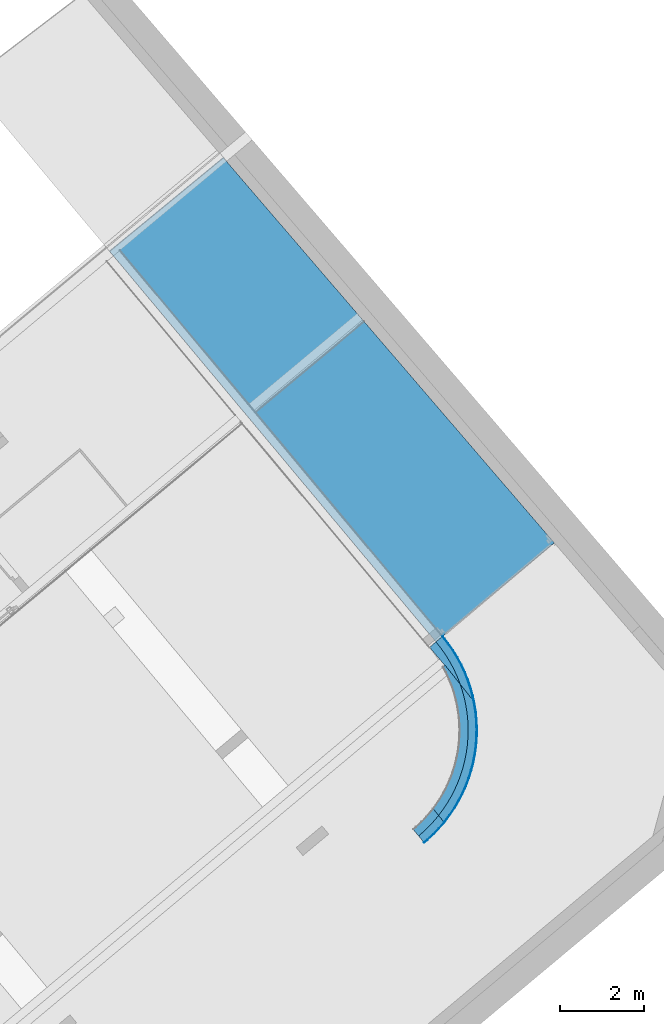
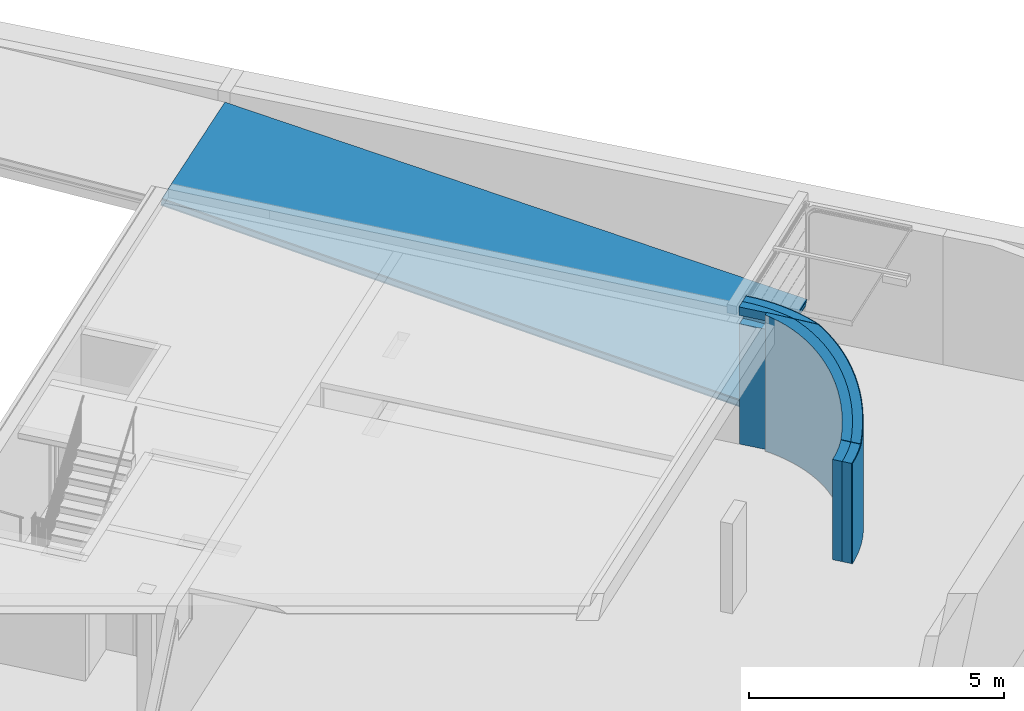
# One storey, part 12 of 17: 6 building element parts, 2 elements without a shape of their own.
"""IFC4 building model written with IfcOpenShell, lengths in metres."""

from ifc_helpers import new_model, entity, si_unit, converted_unit, derived_unit, direction, frame, origin_with_axes, place, context, subcontext, project, spatial, polygons, material, type_object, element, aggregate, save


model = new_model("IFC4")

# Units and contexts
model_context = context("Model", 3, precision=1e-05, world=origin_with_axes(), true_north=direction((0.0, 1.0)))
body_context = subcontext(model_context, "Body", "Model", "MODEL_VIEW")
ifc_project = project(units=[si_unit("LENGTHUNIT", "METRE"), si_unit("AREAUNIT", "SQUARE_METRE"), si_unit("VOLUMEUNIT", "CUBIC_METRE"), converted_unit("PLANEANGLEUNIT", "DEGREE", entity("IfcPlaneAngleMeasure", 0.0174532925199), si_unit("PLANEANGLEUNIT", "RADIAN"), dimensions=[0, 0, 0, 0, 0, 0, 0]), converted_unit("TIMEUNIT", "Year", entity("IfcTimeMeasure", 31556926.0), si_unit("TIMEUNIT", "SECOND"), dimensions=[0, 0, 1, 0, 0, 0, 0]), si_unit("MASSUNIT", "GRAM", prefix="KILO"), si_unit("THERMODYNAMICTEMPERATUREUNIT", "DEGREE_CELSIUS"), si_unit("LUMINOUSINTENSITYUNIT", "LUMEN"), si_unit("ENERGYUNIT", "JOULE", prefix="MEGA"), derived_unit("THERMALCONDUCTANCEUNIT", [(si_unit("POWERUNIT", "WATT"), 1), (si_unit("LENGTHUNIT", "METRE"), -1), (si_unit("THERMODYNAMICTEMPERATUREUNIT", "KELVIN"), -1)]), derived_unit("SPECIFICHEATCAPACITYUNIT", [(si_unit("ENERGYUNIT", "JOULE"), 1), (si_unit("MASSUNIT", "GRAM", prefix="KILO"), -1), (si_unit("THERMODYNAMICTEMPERATUREUNIT", "KELVIN"), -1)]), derived_unit("MASSDENSITYUNIT", [(si_unit("MASSUNIT", "GRAM", prefix="KILO"), 1), (si_unit("VOLUMEUNIT", "CUBIC_METRE"), -1)])], contexts=[model_context])

# Site, building, storey
site_placement = place(None, frame((-0.00153261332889, -0.00661245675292, 0.0), z_axis=(0.0, 0.0, 1.0), x_axis=(1.0, 0.0, 0.0)))
site = spatial("IfcSite", under=ifc_project, at=site_placement, Name="Site", CompositionType="ELEMENT")
building_placement = place(site_placement, origin_with_axes())
building = spatial("IfcBuilding", under=site, at=building_placement, Name="Building", CompositionType="ELEMENT")
storey_placement = place(building_placement, frame((0.0, 0.0, -3.3), z_axis=(0.0, 0.0, 1.0), x_axis=(1.0, 0.0, 0.0)))
storey = spatial("IfcBuildingStorey", under=building, at=storey_placement, Name="UG1", CompositionType="ELEMENT", Elevation=-3.3)

# Ramp, building element parts
ramp_type = type_object("IfcRampType", Name="Rampe Neu 450", PredefinedType="NOTDEFINED")
ramp_placement = place(storey_placement, frame((5.32656928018, 30.3558567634, 2.37561258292), z_axis=(0.0, 0.0, 1.0), x_axis=(0.772442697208, 0.635084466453, 0.0)))
ramp = element("IfcRamp", 1, at=ramp_placement, inside=storey, type_object=ramp_type, Name="Dach-001", PredefinedType="NOTDEFINED")
ifc_material_1 = material(Name="Asphalt")
building_element_part_1_placement = place(ramp_placement, origin_with_axes())
building_element_part_1 = element("IfcBuildingElementPart", 2, at=building_element_part_1_placement, material=ifc_material_1, Name="Asphalt", PredefinedType="NOTDEFINED", context=body_context, shape_type="Tessellation", body=[
    polygons([(-7.17183255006e-08, 0.00171041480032, 0.444810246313), (-7.17183255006e-08, 1.13942064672e-08, 0.455609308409), (3.51377557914, -5.00226526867e-08, 0.455609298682), (3.51377557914, 0.00469298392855, 0.425978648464), (3.51374725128, 0.00469298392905, 0.425978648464), (3.51376025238, 0.000701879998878, 0.451177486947), (1.33045639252e-05, 0.0, 0.444724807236), (2.46648535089e-05, 0.000674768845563, 0.431220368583), (3.53165670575e-05, 0.000966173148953, 0.425388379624), (0.0964259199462, -12.1186518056, -1.49417053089), (0.0964259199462, -12.1233448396, -1.46453988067), (3.77682829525, -12.0943327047, -1.45994480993), (3.77682829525, -12.0896396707, -1.48957546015), (3.51382246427, 0.0012843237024, 0.425438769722), (3.51377551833, 0.0, 0.451142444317)], [[[1, 2, 3, 4, 5, 6]], [[7, 8, 9, 10, 11, 2, 1]], [[2, 11, 12, 3]], [[4, 3, 12, 13]], [[9, 14, 5, 4, 13, 10]], [[15, 6, 5, 14]], [[7, 1, 6, 15]], [[8, 7, 15, 14, 9]], [[11, 10, 13, 12]]], closed=True),
])
ifc_material_2 = material(Name="Stahlbeton Decke")
building_element_part_2_placement = place(ramp_placement, origin_with_axes())
building_element_part_2 = element("IfcBuildingElementPart", 3, at=building_element_part_2_placement, material=ifc_material_2, Name="Stahlbeton Decke", PredefinedType="NOTDEFINED", context=body_context, shape_type="Tessellation", body=[
    polygons([(3.5137448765, 0.00542199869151, 0.421375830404), (1.59406739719e-05, 0.00643052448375, 0.415008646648), (0.000121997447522, 0.0234651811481, 0.30745605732), (-7.17183255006e-08, 0.0234651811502, 0.30745605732), (-7.17183255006e-08, 0.00469304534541, 0.425978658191), (3.51377557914, 0.00469298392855, 0.425978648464), (3.51377557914, 0.0234651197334, 0.307456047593), (3.51368610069, 0.0234651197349, 0.307456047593), (5.47245062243e-05, 0.00149712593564, 0.414762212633), (3.51383024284, 0.00149712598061, 0.421179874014), (0.000255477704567, 0.00698923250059, 0.304846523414), (3.51404262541, 0.00730738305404, 0.304896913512), (3.77682829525, -12.0708675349, -1.60809806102), (0.0964259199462, -12.0998796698, -1.61269313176), (0.0964259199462, -12.1186518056, -1.49417053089), (3.77682829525, -12.0896396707, -1.48957546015)], [[[1, 2, 3, 4, 5, 6, 7, 8]], [[9, 2, 1, 10]], [[11, 3, 2, 9]], [[11, 12, 8, 7, 13, 14, 4, 3]], [[5, 4, 14, 15]], [[16, 6, 5, 15]], [[16, 13, 7, 6]], [[10, 1, 8, 12]], [[10, 12, 11, 9]], [[15, 14, 13, 16]]], closed=True),
])
ifc_material_3 = material(Name="Sperrschicht")
building_element_part_3_placement = place(ramp_placement, origin_with_axes())
building_element_part_3 = element("IfcBuildingElementPart", 4, at=building_element_part_3_placement, material=ifc_material_3, Name="Sperrschicht", PredefinedType="NOTDEFINED", context=body_context, shape_type="Tessellation", body=[
    polygons([(0.000151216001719, 0.0281582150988, 0.277825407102), (0.000310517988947, 0.00849499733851, 0.274711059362), (3.51409766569, 0.00881314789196, 0.274761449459), (3.51367081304, 0.0281581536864, 0.277825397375), (3.51377557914, 0.0281581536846, 0.277825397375), (3.77682829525, -12.066174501, -1.63772871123), (0.0964259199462, -12.0951866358, -1.64232378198), (-7.17183255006e-08, 0.0281582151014, 0.277825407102), (0.000133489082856, 0.025310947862, 0.295802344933), (0.000273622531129, 0.00748562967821, 0.294911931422), (3.51404914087, 0.00748562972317, 0.301329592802), (3.51368337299, 0.024302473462, 0.302169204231), (-7.17183255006e-08, 0.0234651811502, 0.30745605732), (3.51377557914, 0.0234651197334, 0.307456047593), (3.77682829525, -12.0708675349, -1.60809806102), (0.0964259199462, -12.0998796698, -1.61269313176)], [[[1, 2, 3, 4, 5, 6, 7, 8]], [[2, 1, 9, 10]], [[3, 2, 10, 11]], [[4, 3, 11, 12]], [[9, 1, 8, 13, 14, 5, 4, 12]], [[6, 5, 14, 15]], [[7, 6, 15, 16]], [[8, 7, 16, 13]], [[9, 12, 11, 10]], [[14, 13, 16, 15]]], closed=True),
])
aggregate(ramp, [building_element_part_1, building_element_part_2, building_element_part_3])

# Wall, building element parts
wall_type = type_object("IfcWallType", Name="AW KG 420", PredefinedType="NOTDEFINED")
wall_placement = place(storey_placement, frame((12.5559940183, 16.5842158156, 0.0), z_axis=(0.0, 0.0, 1.0), x_axis=(0.76888633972, 0.639385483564, 0.0)))
wall = element("IfcWall", 5, at=wall_placement, inside=storey, type_object=wall_type, Name="Wand-002", PredefinedType="NOTDEFINED")
ifc_material_4 = material(Name="Stahlbeton Wand")
building_element_part_4_placement = place(wall_placement, origin_with_axes())
building_element_part_4 = element("IfcBuildingElementPart", 6, at=building_element_part_4_placement, material=ifc_material_4, Name="Stahlbeton Wand", PredefinedType="NOTDEFINED", context=body_context, shape_type="Tessellation", body=[
    polygons([(2.65108964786, 1.14446129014, 3.12384897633), (2.54391486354, 1.00547455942, 3.08515618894), (2.53680556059, 0.996255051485, 3.08258953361), (2.53680556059, 0.996255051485, 0.0), (2.65108964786, 1.14446129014, 0.0), (2.75672643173, 1.29895016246, 3.16194691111), (2.85337134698, 1.45921775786, 3.19675908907), (2.94070915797, 1.62474131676, 3.22817196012), (3.01845498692, 1.7949809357, 3.25608306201), (3.07584472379, 1.94238527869, 3.27663704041), (3.08865828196, 2.51712510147, 3.27999999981), (2.41424694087, 0.854814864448, 3.03830285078), (3.02590831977, 2.5169352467, 3.25716165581), (2.99688411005, 2.37369512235, 3.24692227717), (2.9522115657, 2.20374313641, 3.23104795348), (2.89790952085, 2.03661862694, 3.21166242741), (2.83415509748, 1.87286671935, 3.18882893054), (2.76115624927, 1.71302153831, 3.16262194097), (2.67915108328, 1.55760446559, 3.13312694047), (2.58840708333, 1.40712243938, 3.10044013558), (2.48922023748, 1.26206630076, 3.06466814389), (2.38191407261, 1.12290919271, 3.02592764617), (2.26683859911, 0.990105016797, 2.9843450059), (2.14436916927, 0.864086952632, 2.940055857), (2.01490525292, 0.745266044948, 2.89320466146), (1.87886913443, 0.634029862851, 2.84394423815), (1.73670453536, 0.530741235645, 2.79243526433), (1.58887516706, 0.435737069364, 2.73884575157), (1.43586321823, 0.349327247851, 2.68335049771), (1.27816778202, 0.271793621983, 2.62613051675), (1.11630322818, 0.203389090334, 2.56737244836), (0.950797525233, 0.144336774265, 2.50726794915), (0.782190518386, 0.0948292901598, 2.44601306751), (0.777618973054, 0.0937662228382, 2.444351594), (0.775046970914, -0.112168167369, 2.44388187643), (0.833054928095, -0.098678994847, 2.46496417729), (1.01262613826, -0.0459521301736, 2.53020235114), (1.18889437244, 0.0169402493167, 2.5942153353), (1.36128468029, 0.0897930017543, 2.65679433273), (1.52923476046, 0.172368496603, 2.71773522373), (1.69219679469, 0.264397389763, 2.7768392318), (1.84963923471, 0.365579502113, 2.83391357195), (2.001048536, 0.475584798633, 2.88877207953), (2.14593083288, 0.59405446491, 2.94123581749), (2.28381354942, 0.720602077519, 2.99113366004), (2.41424694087, 0.854814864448, 0.0), (2.48922023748, 1.26206630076, 0.0), (2.38191407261, 1.12290919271, 0.0), (2.75672643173, 1.29895016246, 0.0), (2.85337134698, 1.45921775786, 0.0), (2.94070915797, 1.62474131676, 0.0), (3.01845498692, 1.7949809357, 0.0), (3.08635524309, 1.96938132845, 0.0), (3.08635524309, 1.96938132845, 3.27999999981), (3.08373470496, 1.96265053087, 3.27999999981), (3.07584472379, 1.94238527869, 3.27999999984), (3.08208043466, 2.22208208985, 3.27999999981), (3.08865828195, 2.51712510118, 0.0), (3.02590832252, 2.51693525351, 0.0), (2.99688411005, 2.37369512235, 0.0), (2.9522115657, 2.20374313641, 0.0), (2.89790952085, 2.03661862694, 0.0), (2.83415509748, 1.87286671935, 0.0), (2.76115624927, 1.71302153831, 0.0), (2.67915108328, 1.55760446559, 0.0), (2.58840708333, 1.40712243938, 0.0), (2.26683859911, 0.990105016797, 0.0), (2.14436916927, 0.864086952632, 0.0), (2.01490525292, 0.745266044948, 0.0), (1.87886913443, 0.634029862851, 0.0), (1.73670453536, 0.530741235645, 0.0), (1.58887516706, 0.435737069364, 0.0), (1.43586321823, 0.349327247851, 0.0), (1.27816778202, 0.271793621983, 0.0), (1.11630322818, 0.203389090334, 0.0), (0.950797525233, 0.144336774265, 0.0), (0.782190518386, 0.0948292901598, 0.0), (0.611032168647, 0.0550281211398, 0.0), (0.611032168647, 0.0550281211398, 2.4), (0.6821575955, 0.0715676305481, 2.4), (0.6821575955, 0.0715676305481, 2.40965734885), (0.679568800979, -0.134370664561, 2.40918153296), (0.679568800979, -0.134370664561, 2.4), (0.650766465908, -0.14106836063, 2.4), (0.650766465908, -0.14106836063, 0.0), (0.833054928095, -0.098678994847, 0.0), (1.01262613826, -0.0459521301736, 0.0), (1.18889437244, 0.0169402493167, 0.0), (1.36128468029, 0.0897930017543, 0.0), (1.52923476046, 0.172368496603, 0.0), (1.69219679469, 0.264397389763, 0.0), (1.84963923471, 0.365579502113, 0.0), (2.001048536, 0.475584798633, 0.0), (2.14593083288, 0.59405446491, 0.0), (2.28381354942, 0.720602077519, 0.0), (3.14418844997, 2.14737363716, 0.0), (3.14418844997, 2.14737363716, 3.27999999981), (3.19176596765, 2.32837728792, 3.27999999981), (3.22893260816, 2.51180188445, 3.27999999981), (3.25556714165, 2.69704913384, 3.27999999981), (3.27158269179, 2.88351479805, 3.27999999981), (3.27554574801, 3.08782711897, 3.27999999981), (3.07656667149, 3.08678005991, 3.27999999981), (3.0801952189, 2.51773175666, 3.27999999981), (3.08867237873, 2.51775739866, 3.27999999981), (3.08867237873, 2.51775739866, 0.0), (3.08867237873, 2.51775739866, 3.08), (3.08866525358, 2.51743780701, 3.08), (3.08866525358, 2.51743780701, 2.88), (3.08867237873, 2.51775739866, 2.88), (3.08019521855, 2.51773175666, 0.0), (3.08006875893, 2.53756378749, 0.0), (3.22893260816, 2.51180188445, 0.0), (3.19176596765, 2.32837728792, 0.0), (0.437880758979, 0.0250630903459, 0.0), (0.437880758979, 0.0250630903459, 2.4), (0.466355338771, -0.172981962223, 2.4), (0.263301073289, 0.00503193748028, 2.4), (0.0878625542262, -0.005, 2.4), (0.0, -0.005, 2.4), (0.0, -0.205, 2.4), (0.0935760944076, -0.205, 2.4), (0.280423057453, -0.19431570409, 2.4), (0.466355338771, -0.172981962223, 0.0), (3.22980394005, 2.51786213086, 3.08), (3.25556714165, 2.69704913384, 3.08), (3.25556714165, 2.69704913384, 0.0), (3.25556714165, 2.69704913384, 2.88), (3.22980394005, 2.51786213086, 2.88), (3.27158269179, 2.88351479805, 3.08), (3.27554618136, 3.08782711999, 3.08), (3.07656667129, 3.08678005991, 3.08), (3.08019521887, 2.51773175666, 3.08), (3.27536057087, 3.07830175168, 2.88), (3.07662371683, 3.07783387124, 2.88), (3.08019521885, 2.51773175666, 2.88), (3.27158269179, 2.88351479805, 2.88), (3.07662371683, 3.07783387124, 0.0), (3.07779213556, 2.89459614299, 0.0), (3.07892255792, 2.71731721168, 0.0), (0.263301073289, 0.00503193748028, 0.0), (0.0878625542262, -0.005, 0.0), (0.0, -0.005, 0.0), (0.0, -0.205, 0.0), (0.0935760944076, -0.205, 0.0), (0.280423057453, -0.19431570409, 0.0), (3.27158269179, 2.88351479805, 0.0), (3.27536057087, 3.07830175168, 0.0)], [[[1, 2, 3, 4, 5]], [[2, 1, 6, 7, 8, 9, 10, 11]], [[12, 3, 2, 11, 13, 14, 15, 16, 17, 18, 19, 20, 21, 22, 23, 24, 25, 26, 27, 28, 29, 30, 31, 32, 33, 34, 35, 36, 37, 38, 39, 40, 41, 42, 43, 44, 45]], [[3, 12, 46, 4]], [[47, 5, 4, 48]], [[6, 1, 5, 49]], [[7, 6, 49, 50]], [[8, 7, 50, 51]], [[9, 8, 51, 52]], [[10, 9, 52, 53, 54, 55, 56]], [[10, 56, 57, 11]], [[13, 11, 58, 59]], [[14, 13, 59, 60]], [[15, 14, 60, 61]], [[16, 15, 61, 62]], [[17, 16, 62, 63]], [[18, 17, 63, 64]], [[19, 18, 64, 65]], [[20, 19, 65, 66]], [[21, 20, 66, 47]], [[22, 21, 47, 48]], [[23, 22, 48, 67]], [[24, 23, 67, 68]], [[25, 24, 68, 69]], [[26, 25, 69, 70]], [[27, 26, 70, 71]], [[28, 27, 71, 72]], [[29, 28, 72, 73]], [[30, 29, 73, 74]], [[31, 30, 74, 75]], [[32, 31, 75, 76]], [[33, 32, 76, 77]], [[34, 33, 77, 78, 79, 80, 81]], [[35, 34, 81, 82]], [[36, 35, 82, 83, 84, 85, 86]], [[37, 36, 86, 87]], [[38, 37, 87, 88]], [[39, 38, 88, 89]], [[40, 39, 89, 90]], [[41, 40, 90, 91]], [[42, 41, 91, 92]], [[43, 42, 92, 93]], [[44, 43, 93, 94]], [[45, 44, 94, 95]], [[12, 45, 95, 46]], [[48, 4, 46, 67]], [[66, 49, 5, 47]], [[65, 50, 49, 66]], [[64, 51, 50, 65]], [[63, 52, 51, 64]], [[62, 53, 52, 63]], [[53, 96, 97, 54]], [[57, 55, 54, 97, 98, 99, 100, 101, 102, 103, 104, 105, 11]], [[56, 55, 57]], [[106, 58, 11, 105, 107, 108, 109, 110]], [[58, 106, 111, 112, 113, 114, 60, 59]], [[60, 114, 96, 61]], [[61, 96, 53, 62]], [[67, 46, 95, 68]], [[68, 95, 94, 69]], [[69, 94, 93, 70]], [[70, 93, 92, 71]], [[71, 92, 91, 72]], [[72, 91, 90, 73]], [[73, 90, 89, 74]], [[74, 89, 88, 75]], [[75, 88, 87, 76]], [[76, 87, 86, 77]], [[77, 86, 85, 78]], [[115, 116, 79, 78]], [[117, 84, 83, 80, 79, 116, 118, 119, 120, 121, 122, 123]], [[80, 83, 82, 81]], [[85, 84, 117, 124]], [[96, 114, 98, 97]], [[114, 113, 99, 98]], [[125, 126, 100, 99, 113, 127, 128, 129]], [[126, 130, 101, 100]], [[130, 131, 102, 101]], [[131, 132, 103, 102]], [[132, 133, 104, 103]], [[133, 107, 105, 104]], [[108, 107, 133, 132, 131, 130, 126, 125]], [[108, 125, 129, 109]], [[134, 135, 136, 110, 109, 129, 128, 137]], [[106, 110, 136, 111]], [[138, 139, 140, 112, 111, 136, 135]], [[127, 113, 112, 140]], [[78, 85, 124, 115]], [[141, 118, 116, 115]], [[142, 119, 118, 141]], [[143, 120, 119, 142]], [[144, 121, 120, 143]], [[145, 122, 121, 144]], [[146, 123, 122, 145]], [[124, 117, 123, 146]], [[147, 137, 128, 127]], [[138, 135, 134, 148]], [[148, 134, 137, 147]], [[147, 139, 138, 148]], [[147, 127, 140, 139]], [[115, 124, 146, 141]], [[141, 146, 145, 142]], [[142, 145, 144, 143]]], closed=True),
])
ifc_material_5 = material(Name="XPS KG")
building_element_part_5_placement = place(wall_placement, origin_with_axes())
building_element_part_5 = element("IfcBuildingElementPart", 7, at=building_element_part_5_placement, material=ifc_material_5, Name="XPS KG", PredefinedType="NOTDEFINED", context=body_context, shape_type="Tessellation", body=[
    polygons([(0.0, -0.205, 2.4), (0.0, -0.205, 0.0), (0.0, -0.405, 0.0), (0.0, -0.405, 2.4), (0.0935760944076, -0.205, 2.4), (0.0935760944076, -0.205, 0.0), (0.099289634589, -0.405, 0.0), (0.099289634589, -0.405, 2.4), (0.297545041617, -0.393663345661, 2.4), (0.494829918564, -0.371027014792, 2.4), (0.676990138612, -0.339502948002, 2.4), (0.679568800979, -0.134370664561, 2.4), (0.650766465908, -0.14106836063, 2.4), (0.466355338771, -0.172981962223, 2.4), (0.280423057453, -0.19431570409, 2.4), (0.280423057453, -0.19431570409, 0.0), (0.297545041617, -0.393663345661, 0.0), (0.494829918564, -0.371027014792, 0.0), (0.690500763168, -0.3371648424, 0.0), (0.690500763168, -0.3371648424, 2.41361966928), (0.676990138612, -0.339502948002, 2.40870757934), (0.679568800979, -0.134370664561, 2.40918153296), (0.650766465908, -0.14106836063, 0.0), (0.775046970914, -0.112168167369, 2.44388186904), (0.833054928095, -0.098678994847, 2.46496417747), (0.833054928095, -0.098678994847, 0.0), (0.466355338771, -0.172981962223, 0.0), (0.883919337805, -0.292187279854, 0.0), (0.883919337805, -0.292187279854, 2.48391528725), (0.772474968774, -0.318102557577, 2.4434121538), (1.07445475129, -0.236241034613, 2.55313675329), (1.2614855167, -0.1695085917, 2.62105822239), (1.44440157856, -0.0922076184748, 2.68745814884), (1.62260630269, -0.004590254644, 2.75211994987), (1.79551842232, 0.0930577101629, 2.81483271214), (1.96257393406, 0.200417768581, 2.87539187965), (2.12322793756, 0.317139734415, 2.93359992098), (2.27695641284, 0.442842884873, 2.98926697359), (2.37289294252, 0.530892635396, 3.02398507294), (2.54391486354, 1.00547455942, 3.08515618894), (2.53680556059, 0.996255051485, 3.08258953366), (2.41424694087, 0.854814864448, 3.03830285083), (2.28381354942, 0.720602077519, 2.99113366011), (2.14593083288, 0.59405446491, 2.94123581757), (2.001048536, 0.475584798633, 2.88877207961), (1.84963923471, 0.365579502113, 2.83391357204), (1.69219679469, 0.264397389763, 2.77683923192), (1.52923476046, 0.172368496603, 2.71773522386), (1.36128468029, 0.0897930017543, 2.65679433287), (1.18889437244, 0.0169402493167, 2.59421533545), (1.01262613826, -0.0459521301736, 2.53020235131), (1.01262613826, -0.0459521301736, 0.0), (1.07445475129, -0.236241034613, 0.0), (1.2614855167, -0.1695085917, 0.0), (1.44440157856, -0.0922076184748, 0.0), (1.62260630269, -0.004590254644, 0.0), (1.79551842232, 0.0930577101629, 0.0), (1.96257393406, 0.200417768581, 0.0), (2.12322793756, 0.317139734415, 0.0), (2.27695641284, 0.442842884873, 0.0), (2.42325792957, 0.577117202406, 0.0), (2.42325792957, 0.577117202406, 3.04221129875), (2.65108964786, 1.14446129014, 3.12384897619), (2.56165528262, 0.719524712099, 3.09226010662), (2.69169704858, 0.869600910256, 3.13925046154), (2.81295905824, 1.02685627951, 3.18302909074), (2.92504578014, 1.19077788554, 3.22345319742), (3.02759161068, 1.36083105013, 3.26039092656), (3.06443602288, 1.43065897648, 3.27364279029), (3.07584472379, 1.94238527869, 3.27663704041), (3.01845498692, 1.7949809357, 3.25608306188), (2.94070915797, 1.62474131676, 3.22817195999), (2.85337134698, 1.45921775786, 3.19675908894), (2.75672643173, 1.29895016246, 3.16194691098), (2.65108964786, 1.14446129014, 0.0), (2.53680556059, 0.996255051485, 0.0), (2.41424694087, 0.854814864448, 0.0), (2.28381354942, 0.720602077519, 0.0), (2.14593083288, 0.59405446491, 0.0), (2.001048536, 0.475584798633, 0.0), (1.84963923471, 0.365579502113, 0.0), (1.69219679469, 0.264397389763, 0.0), (1.52923476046, 0.172368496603, 0.0), (1.36128468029, 0.0897930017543, 0.0), (1.18889437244, 0.0169402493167, 0.0), (2.56165528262, 0.719524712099, 0.0), (2.69169704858, 0.869600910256, 0.0), (2.81295905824, 1.02685627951, 0.0), (2.92504578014, 1.19077788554, 0.0), (3.02759161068, 1.36083105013, 0.0), (3.12026206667, 1.5364610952, 0.0), (3.12026206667, 1.5364610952, 3.27999999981), (3.08211629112, 1.46416681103, 3.27999999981), (3.06443602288, 1.43065897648, 3.27999999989), (3.07584472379, 1.94238527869, 3.27999999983), (3.01845498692, 1.7949809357, 0.0), (3.08373470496, 1.96265053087, 3.27999999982), (3.08635524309, 1.96938132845, 3.27999999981), (3.08635524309, 1.96938132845, 0.0), (2.94070915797, 1.62474131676, 0.0), (2.85337134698, 1.45921775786, 0.0), (2.75672643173, 1.29895016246, 0.0), (3.20275487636, 1.71709515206, 0.0), (3.20275487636, 1.71709515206, 3.27999999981), (3.27554547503, 3.08782734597, 3.27999999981), (3.27158269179, 2.88351479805, 3.27999999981), (3.25556714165, 2.69704913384, 3.27999999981), (3.22893260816, 2.51180188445, 3.27999999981), (3.19176596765, 2.32837728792, 3.27999999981), (3.14418844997, 2.14737363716, 3.27999999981), (3.08448549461, 1.8449076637, 3.27999999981), (3.27480096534, 1.90214402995, 3.27999999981), (3.33616533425, 2.09100413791, 3.27999999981), (3.38664782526, 2.2830594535, 3.27999999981), (3.42608377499, 2.47768353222, 3.27999999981), (3.45434455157, 2.67424155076, 3.27999999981), (3.47133797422, 2.87209237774, 3.27999999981), (3.47554286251, 3.08887998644, 3.27999999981), (3.14418844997, 2.14737363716, 0.0), (3.27480096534, 1.90214402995, 0.0), (3.27536057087, 3.07830175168, 0.0), (3.27158269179, 2.88351479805, 0.0), (3.27554618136, 3.08782711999, 3.08), (3.27536057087, 3.07830175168, 3.08), (3.25556714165, 2.69704913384, 0.0), (3.22893260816, 2.51180188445, 0.0), (3.19176596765, 2.32837728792, 0.0), (3.33616533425, 2.09100413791, 0.0), (3.38664782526, 2.2830594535, 0.0), (3.42608377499, 2.47768353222, 0.0), (3.45434455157, 2.67424155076, 0.0), (3.47133797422, 2.87209237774, 0.0), (3.47534652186, 3.07877257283, 0.0), (3.47534652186, 3.07877257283, 3.08), (3.47554425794, 3.08887953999, 3.08), (3.27556860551, 3.07830224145, 0.0), (3.27556860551, 3.07830224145, 3.08)], [[[1, 2, 3, 4]], [[2, 1, 5, 6]], [[3, 2, 6, 7]], [[3, 7, 8, 4]], [[5, 1, 4, 8, 9, 10, 11, 12, 13, 14, 15]], [[6, 5, 15, 16]], [[17, 7, 6, 16]], [[7, 17, 9, 8]], [[9, 17, 18, 10]], [[18, 19, 20, 21, 11, 10]], [[12, 11, 21, 22]], [[23, 13, 12, 22, 24, 25, 26]], [[23, 27, 14, 13]], [[27, 16, 15, 14]], [[16, 27, 18, 17]], [[27, 23, 19, 18]], [[20, 19, 28, 29, 30]], [[22, 21, 20, 30, 24]], [[25, 24, 30, 29, 31, 32, 33, 34, 35, 36, 37, 38, 39, 40, 41, 42, 43, 44, 45, 46, 47, 48, 49, 50, 51]], [[26, 25, 51, 52]], [[19, 23, 26, 28]], [[28, 53, 31, 29]], [[31, 53, 54, 32]], [[54, 55, 33, 32]], [[55, 56, 34, 33]], [[56, 57, 35, 34]], [[35, 57, 58, 36]], [[58, 59, 37, 36]], [[59, 60, 38, 37]], [[60, 61, 62, 39, 38]], [[63, 40, 39, 62, 64, 65, 66, 67, 68, 69, 70, 71, 72, 73, 74]], [[75, 76, 41, 40, 63]], [[76, 77, 42, 41]], [[77, 78, 43, 42]], [[78, 79, 44, 43]], [[79, 80, 45, 44]], [[81, 46, 45, 80]], [[81, 82, 47, 46]], [[82, 83, 48, 47]], [[83, 84, 49, 48]], [[84, 85, 50, 49]], [[52, 51, 50, 85]], [[26, 52, 53, 28]], [[53, 52, 85, 54]], [[54, 85, 84, 55]], [[84, 83, 56, 55]], [[83, 82, 57, 56]], [[82, 81, 58, 57]], [[81, 80, 59, 58]], [[80, 79, 60, 59]], [[79, 78, 61, 60]], [[61, 86, 64, 62]], [[64, 86, 87, 65]], [[87, 88, 66, 65]], [[88, 89, 67, 66]], [[89, 90, 68, 67]], [[68, 90, 91, 92, 93, 94, 69]], [[95, 70, 69, 94]], [[96, 71, 70, 95, 97, 98, 99]], [[96, 100, 72, 71]], [[100, 101, 73, 72]], [[101, 102, 74, 73]], [[75, 63, 74, 102]], [[76, 75, 88, 87]], [[77, 76, 87, 86]], [[78, 77, 86, 61]], [[75, 102, 89, 88]], [[102, 101, 90, 89]], [[101, 100, 91, 90]], [[91, 103, 104, 92]], [[105, 106, 107, 108, 109, 110, 98, 97, 111, 93, 92, 104, 112, 113, 114, 115, 116, 117, 118]], [[97, 95, 94, 93, 111]], [[119, 99, 98, 110]], [[96, 99, 120, 103]], [[100, 96, 103, 91]], [[103, 120, 112, 104]], [[121, 122, 106, 105, 123, 124]], [[106, 122, 125, 107]], [[125, 126, 108, 107]], [[126, 127, 109, 108]], [[127, 119, 110, 109]], [[120, 128, 113, 112]], [[128, 129, 114, 113]], [[129, 130, 115, 114]], [[130, 131, 116, 115]], [[131, 132, 117, 116]], [[133, 134, 135, 118, 117, 132]], [[135, 123, 105, 118]], [[99, 119, 128, 120]], [[121, 136, 133, 132, 122]], [[137, 124, 123, 135, 134]], [[136, 121, 124, 137, 134, 133]], [[125, 122, 132, 131]], [[126, 125, 131, 130]], [[127, 126, 130, 129]], [[119, 127, 129, 128]]], closed=True),
])
ifc_material_6 = material(Name="Kalkzementputz KG")
building_element_part_6_placement = place(wall_placement, origin_with_axes())
building_element_part_6 = element("IfcBuildingElementPart", 8, at=building_element_part_6_placement, material=ifc_material_6, Name="Kalkzementputz KG", PredefinedType="NOTDEFINED", context=body_context, shape_type="Tessellation", body=[
    polygons([(2.82509926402, 1.01803590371, 3.18746759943), (2.70331391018, 0.860101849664, 3.14350002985), (2.70331391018, 0.860101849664, 0.0), (2.82509926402, 1.01803590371, 0.0), (2.57271090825, 0.709377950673, 3.09630687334), (2.93766973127, 1.18266496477, 3.228066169), (3.04065813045, 1.35345204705, 3.26516331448), (3.0636877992, 1.39709812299, 3.27344641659), (3.06443602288, 1.43065897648, 3.27364279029), (3.02759161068, 1.36083105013, 3.26039092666), (2.92504578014, 1.19077788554, 3.22345319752), (2.81295905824, 1.02685627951, 3.18302909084), (2.69169704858, 0.869600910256, 3.13925046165), (2.56165528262, 0.719524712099, 3.09226010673), (2.42325792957, 0.577117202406, 3.04221129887), (2.37289294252, 0.530892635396, 3.02398507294), (2.3619301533, 0.500471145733, 3.02006390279), (2.43371625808, 0.566355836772, 3.04604206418), (2.57271090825, 0.709377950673, 0.0), (2.81295905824, 1.02685627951, 0.0), (2.69169704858, 0.869600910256, 0.0), (2.93766973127, 1.18266496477, 0.0), (3.04065813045, 1.35345204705, 0.0), (3.13372853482, 1.52984007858, 0.0), (3.13372853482, 1.52984007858, 3.27999999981), (3.08190876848, 1.4316404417, 3.27999999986), (3.0636877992, 1.39709812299, 3.27999999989), (3.06443602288, 1.43065897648, 3.27999999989), (3.08211101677, 1.4641668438, 3.27999999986), (3.12026206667, 1.5364610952, 3.27999999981), (3.12026206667, 1.5364610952, 0.0), (3.02759161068, 1.36083105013, 0.0), (2.92504578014, 1.19077788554, 0.0), (2.56165528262, 0.719524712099, 0.0), (2.42325792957, 0.577117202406, 0.0), (2.27695641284, 0.442842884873, 0.0), (2.27695641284, 0.442842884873, 2.98926697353), (2.28678333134, 0.43150201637, 2.99286931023), (2.12322793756, 0.317139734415, 2.9335999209), (1.96257393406, 0.200417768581, 2.87539187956), (1.79551842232, 0.0930577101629, 2.81483271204), (1.62260630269, -0.004590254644, 2.75211994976), (1.44440157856, -0.0922076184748, 2.68745814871), (1.2614855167, -0.1695085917, 2.62105822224), (1.07445475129, -0.236241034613, 2.55313675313), (0.883919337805, -0.292187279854, 2.48391528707), (0.772474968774, -0.318102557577, 2.44341215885), (0.772282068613, -0.333547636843, 2.44337693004), (0.887734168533, -0.306700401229, 2.48533662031), (1.07909189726, -0.250512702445, 2.55485683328), (1.26692985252, -0.183492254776, 2.62307143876), (1.45063534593, -0.105857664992, 2.6897579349), (1.62960916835, -0.0178621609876, 2.75469880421), (1.80326754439, 0.0802072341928, 2.81768222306), (1.97104403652, 0.188030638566, 2.87850275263), (2.13239139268, 0.305256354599, 2.936962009), (2.28678333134, 0.43150201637, 0.0), (2.43371625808, 0.566355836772, 0.0), (3.21657736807, 1.71125371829, 0.0), (3.21657736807, 1.71125371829, 3.27999999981), (3.28893439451, 1.89710123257, 3.27999999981), (3.35056360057, 2.08677642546, 3.27999999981), (3.40126396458, 2.27966061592, 3.27999999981), (3.44087011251, 2.4751246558, 3.27999999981), (3.46925285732, 2.67253098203, 3.27999999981), (3.4863196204, 2.87123569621, 3.27999999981), (3.49054233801, 3.08895846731, 3.27999999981), (3.47554340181, 3.08887953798, 3.27999999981), (3.47133797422, 2.87209237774, 3.27999999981), (3.45434455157, 2.67424155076, 3.27999999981), (3.42608377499, 2.47768353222, 3.27999999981), (3.38664782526, 2.2830594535, 3.27999999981), (3.33616533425, 2.09100413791, 3.27999999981), (3.27480096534, 1.90214402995, 3.27999999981), (3.20275487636, 1.71709515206, 3.27999999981), (3.20275487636, 1.71709515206, 0.0), (2.12322793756, 0.317139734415, 0.0), (1.96257393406, 0.200417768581, 0.0), (1.79551842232, 0.0930577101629, 0.0), (1.62260630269, -0.004590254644, 0.0), (1.44440157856, -0.0922076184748, 0.0), (1.2614855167, -0.1695085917, 0.0), (1.07445475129, -0.236241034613, 0.0), (0.883919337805, -0.292187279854, 0.0), (0.690500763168, -0.3371648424, 0.0), (0.690500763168, -0.3371648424, 2.41361980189), (0.676990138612, -0.339502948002, 2.40870757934), (0.676798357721, -0.354759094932, 2.40867233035), (0.693480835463, -0.351872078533, 2.41473774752), (0.693480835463, -0.351872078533, 0.0), (0.887734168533, -0.306700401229, 0.0), (1.07909189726, -0.250512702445, 0.0), (1.26692985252, -0.183492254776, 0.0), (1.45063534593, -0.105857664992, 0.0), (1.62960916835, -0.0178621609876, 0.0), (1.80326754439, 0.0802072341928, 0.0), (1.97104403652, 0.188030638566, 0.0), (2.13239139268, 0.305256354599, 0.0), (3.28893439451, 1.89710123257, 0.0), (3.35056360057, 2.08677642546, 0.0), (3.40126396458, 2.27966061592, 0.0), (3.44087011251, 2.4751246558, 0.0), (3.46925285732, 2.67253098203, 0.0), (3.4863196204, 2.87123569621, 0.0), (3.49034546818, 3.07880788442, 3.08), (3.49054233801, 3.08895846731, 3.08), (3.49034546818, 3.07880788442, 0.0), (3.47554425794, 3.08887953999, 3.08), (3.47534652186, 3.07877257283, 0.0), (3.47133797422, 2.87209237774, 0.0), (3.47534652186, 3.07877257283, 3.08), (3.45434455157, 2.67424155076, 0.0), (3.42608377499, 2.47768353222, 0.0), (3.38664782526, 2.2830594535, 0.0), (3.33616533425, 2.09100413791, 0.0), (3.27480096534, 1.90214402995, 0.0), (0.676990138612, -0.339502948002, 2.4), (0.494829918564, -0.371027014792, 0.0), (0.494829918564, -0.371027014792, 2.4), (0.676798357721, -0.354759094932, 2.4), (0.496965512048, -0.385880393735, 2.4), (0.496965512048, -0.385880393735, 0.0), (0.297545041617, -0.393663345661, 0.0), (0.297545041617, -0.393663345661, 2.4), (0.298829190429, -0.408614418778, 2.4), (0.099289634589, -0.405, 2.4), (0.0, -0.405, 2.4), (0.0, -0.42, 2.4), (0.0997181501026, -0.42, 2.4), (0.298829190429, -0.408614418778, 0.0), (0.099289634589, -0.405, 0.0), (0.0, -0.405, 0.0), (0.0, -0.42, 0.0), (0.0997181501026, -0.42, 0.0)], [[[1, 2, 3, 4]], [[5, 2, 1, 6, 7, 8, 9, 10, 11, 12, 13, 14, 15, 16, 17, 18]], [[2, 5, 19, 3]], [[20, 4, 3, 21]], [[6, 1, 4, 22]], [[7, 6, 22, 23]], [[8, 7, 23, 24, 25, 26, 27]], [[8, 27, 28, 9]], [[28, 29, 30, 31, 32, 10, 9]], [[11, 10, 32, 33]], [[12, 11, 33, 20]], [[13, 12, 20, 21]], [[14, 13, 21, 34]], [[15, 14, 34, 35]], [[16, 15, 35, 36, 37]], [[38, 17, 16, 37, 39, 40, 41, 42, 43, 44, 45, 46, 47, 48, 49, 50, 51, 52, 53, 54, 55, 56]], [[17, 38, 57, 58, 18]], [[5, 18, 58, 19]], [[21, 3, 19, 34]], [[33, 22, 4, 20]], [[32, 23, 22, 33]], [[31, 24, 23, 32]], [[24, 59, 60, 25]], [[29, 26, 25, 60, 61, 62, 63, 64, 65, 66, 67, 68, 69, 70, 71, 72, 73, 74, 75, 30]], [[27, 26, 29, 28]], [[76, 31, 30, 75]], [[34, 19, 58, 35]], [[35, 58, 57, 36]], [[39, 37, 36, 77]], [[40, 39, 77, 78]], [[41, 40, 78, 79]], [[42, 41, 79, 80]], [[43, 42, 80, 81]], [[44, 43, 81, 82]], [[45, 44, 82, 83]], [[46, 45, 83, 84]], [[47, 46, 84, 85, 86]], [[48, 47, 86, 87, 88, 89]], [[49, 48, 89, 90, 91]], [[50, 49, 91, 92]], [[51, 50, 92, 93]], [[52, 51, 93, 94]], [[53, 52, 94, 95]], [[54, 53, 95, 96]], [[55, 54, 96, 97]], [[56, 55, 97, 98]], [[38, 56, 98, 57]], [[76, 59, 24, 31]], [[59, 99, 61, 60]], [[99, 100, 62, 61]], [[100, 101, 63, 62]], [[101, 102, 64, 63]], [[102, 103, 65, 64]], [[103, 104, 66, 65]], [[105, 106, 67, 66, 104, 107]], [[106, 108, 68, 67]], [[109, 110, 69, 68, 108, 111]], [[110, 112, 70, 69]], [[112, 113, 71, 70]], [[113, 114, 72, 71]], [[114, 115, 73, 72]], [[115, 116, 74, 73]], [[116, 76, 75, 74]], [[36, 57, 98, 77]], [[77, 98, 97, 78]], [[78, 97, 96, 79]], [[79, 96, 95, 80]], [[80, 95, 94, 81]], [[81, 94, 93, 82]], [[82, 93, 92, 83]], [[83, 92, 91, 84]], [[84, 91, 90, 85]], [[117, 87, 86, 85, 118, 119]], [[117, 120, 88, 87]], [[88, 120, 121, 122, 90, 89]], [[116, 99, 59, 76]], [[115, 100, 99, 116]], [[114, 101, 100, 115]], [[113, 102, 101, 114]], [[112, 103, 102, 113]], [[110, 104, 103, 112]], [[108, 106, 105, 111]], [[109, 107, 104, 110]], [[111, 105, 107, 109]], [[85, 90, 122, 118]], [[123, 124, 119, 118]], [[125, 121, 120, 117, 119, 124, 126, 127, 128, 129]], [[122, 121, 125, 130]], [[118, 122, 130, 123]], [[131, 126, 124, 123]], [[132, 127, 126, 131]], [[133, 128, 127, 132]], [[134, 129, 128, 133]], [[130, 125, 129, 134]], [[123, 130, 134, 131]], [[131, 134, 133, 132]]], closed=True),
])
aggregate(wall, [building_element_part_4, building_element_part_5, building_element_part_6])

save(model, "model.ifc")
